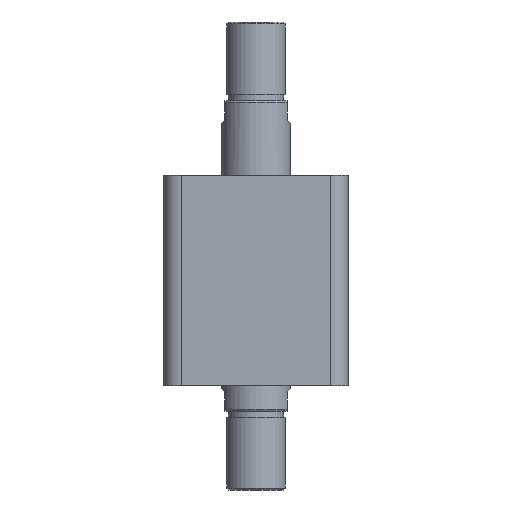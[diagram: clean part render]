
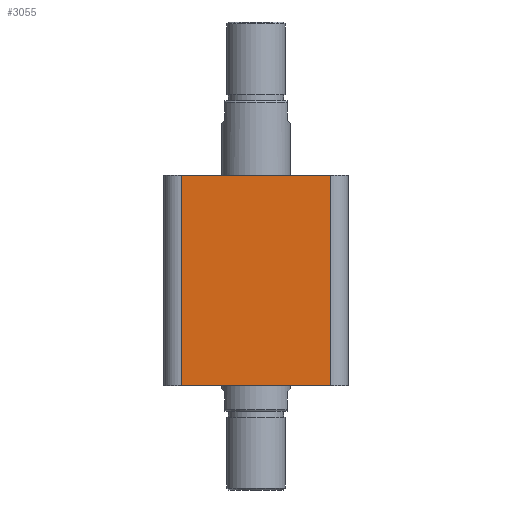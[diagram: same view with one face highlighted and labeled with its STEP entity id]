
A CAD part, front view. The second image highlights one B-rep face of the part: STEP entity #3055.
In plain terms, the highlighted planar face has unit normal (0, -1, 0).
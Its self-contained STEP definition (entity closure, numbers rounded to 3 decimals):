
#349 = CARTESIAN_POINT ( 'NONE',  ( -38., -47., 107. ) ) ;
#360 = CARTESIAN_POINT ( 'NONE',  ( 38., -47., 107. ) ) ;
#367 = CARTESIAN_POINT ( 'NONE',  ( -38., -47., 0. ) ) ;
#374 = CARTESIAN_POINT ( 'NONE',  ( 38., -47., 0. ) ) ;
#523 = EDGE_LOOP ( 'NONE', ( #2309, #2358, #2318, #2297 ) ) ;
#571 = LINE ( 'NONE', #1229, #586 ) ;
#579 = LINE ( 'NONE', #1238, #582 ) ;
#581 = LINE ( 'NONE', #1240, #584 ) ;
#582 = VECTOR ( 'NONE', #1239, 1000. ) ;
#584 = VECTOR ( 'NONE', #1241, 1000. ) ;
#586 = VECTOR ( 'NONE', #1242, 1000. ) ;
#587 = LINE ( 'NONE', #1245, #590 ) ;
#590 = VECTOR ( 'NONE', #1246, 1000. ) ;
#895 = FACE_OUTER_BOUND ( 'NONE', #523, .T. ) ;
#1229 = CARTESIAN_POINT ( 'NONE',  ( -47., -47., 0. ) ) ;
#1238 = CARTESIAN_POINT ( 'NONE',  ( -47., -47., 107. ) ) ;
#1239 = DIRECTION ( 'NONE',  ( 1., 0., 0. ) ) ;
#1240 = CARTESIAN_POINT ( 'NONE',  ( -38., -47., 107. ) ) ;
#1241 = DIRECTION ( 'NONE',  ( 0., 0., -1. ) ) ;
#1242 = DIRECTION ( 'NONE',  ( 1., 0., 0. ) ) ;
#1245 = CARTESIAN_POINT ( 'NONE',  ( 38., -47., 107. ) ) ;
#1246 = DIRECTION ( 'NONE',  ( 0., 0., 1. ) ) ;
#1534 = EDGE_CURVE ( 'NONE', #3204, #3282, #579, .T. ) ;
#1535 = EDGE_CURVE ( 'NONE', #3204, #3286, #581, .T. ) ;
#1536 = EDGE_CURVE ( 'NONE', #3286, #3293, #571, .T. ) ;
#1538 = EDGE_CURVE ( 'NONE', #3293, #3282, #587, .T. ) ;
#1899 = AXIS2_PLACEMENT_3D ( 'NONE', #2935, #2939, #2940 ) ;
#2297 = ORIENTED_EDGE ( 'NONE', *, *, #1538, .T. ) ;
#2309 = ORIENTED_EDGE ( 'NONE', *, *, #1534, .F. ) ;
#2318 = ORIENTED_EDGE ( 'NONE', *, *, #1536, .T. ) ;
#2358 = ORIENTED_EDGE ( 'NONE', *, *, #1535, .T. ) ;
#2935 = CARTESIAN_POINT ( 'NONE',  ( -47., -47., 107. ) ) ;
#2937 = PLANE ( 'NONE',  #1899 ) ;
#2939 = DIRECTION ( 'NONE',  ( 0., 1., 0. ) ) ;
#2940 = DIRECTION ( 'NONE',  ( 0., 0., 1. ) ) ;
#3055 = ADVANCED_FACE ( 'NONE', ( #895 ), #2937, .F. ) ;
#3204 = VERTEX_POINT ( 'NONE', #349 ) ;
#3282 = VERTEX_POINT ( 'NONE', #360 ) ;
#3286 = VERTEX_POINT ( 'NONE', #367 ) ;
#3293 = VERTEX_POINT ( 'NONE', #374 ) ;
